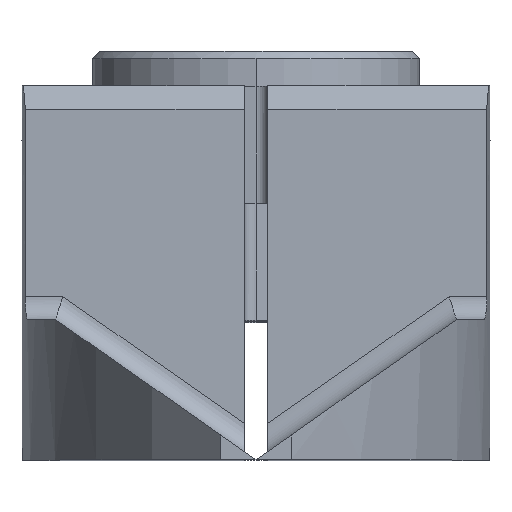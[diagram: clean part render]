
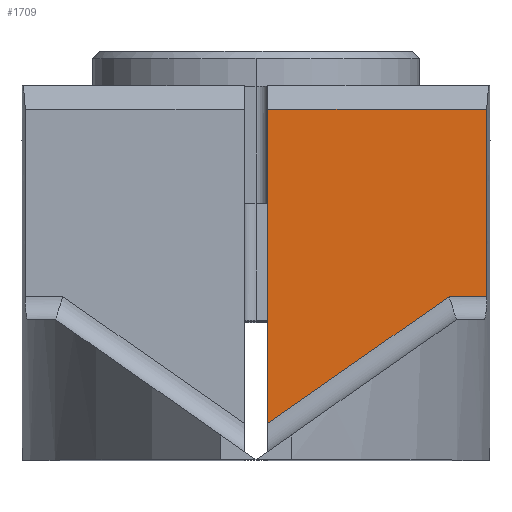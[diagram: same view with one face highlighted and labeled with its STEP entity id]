
A CAD part, top view. The second image highlights one B-rep face of the part: STEP entity #1709.
In plain terms, the highlighted planar face has unit normal (0, 0, 1).
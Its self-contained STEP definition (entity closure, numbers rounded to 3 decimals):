
#196 = ORIENTED_EDGE ( 'NONE', *, *, #337, .T. ) ;
#232 = VERTEX_POINT ( 'NONE', #1967 ) ;
#250 = EDGE_CURVE ( 'NONE', #4395, #232, #3202, .T. ) ;
#337 = EDGE_CURVE ( 'NONE', #4284, #2997, #1109, .T. ) ;
#421 = EDGE_CURVE ( 'NONE', #2201, #4395, #4267, .T. ) ;
#736 = DIRECTION ( 'NONE',  ( 1., 0., 0. ) ) ;
#784 = CARTESIAN_POINT ( 'NONE',  ( 9.857, 9., 24. ) ) ;
#785 = DIRECTION ( 'NONE',  ( 0., 0., 1. ) ) ;
#787 = VECTOR ( 'NONE', #2438, 1000. ) ;
#793 = ORIENTED_EDGE ( 'NONE', *, *, #2061, .F. ) ;
#910 = PLANE ( 'NONE',  #2645 ) ;
#1109 = LINE ( 'NONE', #1699, #1929 ) ;
#1264 = CARTESIAN_POINT ( 'NONE',  ( 0.5, -4.429, 24. ) ) ;
#1571 = DIRECTION ( 'NONE',  ( 0.819, 0.574, 0. ) ) ;
#1699 = CARTESIAN_POINT ( 'NONE',  ( 0.5, -4.429, 24. ) ) ;
#1709 = ADVANCED_FACE ( 'NONE', ( #2128 ), #910, .T. ) ;
#1809 = DIRECTION ( 'NONE',  ( 0., 1., 0. ) ) ;
#1847 = LINE ( 'NONE', #3223, #2675 ) ;
#1929 = VECTOR ( 'NONE', #1571, 1000. ) ;
#1933 = CARTESIAN_POINT ( 'NONE',  ( 9.857, 2., 24. ) ) ;
#1967 = CARTESIAN_POINT ( 'NONE',  ( 9.857, 1., 24. ) ) ;
#2050 = EDGE_LOOP ( 'NONE', ( #3542, #2737, #196, #793, #3609 ) ) ;
#2061 = EDGE_CURVE ( 'NONE', #232, #2997, #3401, .T. ) ;
#2128 = FACE_OUTER_BOUND ( 'NONE', #2050, .T. ) ;
#2201 = VERTEX_POINT ( 'NONE', #4079 ) ;
#2438 = DIRECTION ( 'NONE',  ( 1., 0., 0. ) ) ;
#2645 = AXIS2_PLACEMENT_3D ( 'NONE', #1264, #785, #736 ) ;
#2649 = CARTESIAN_POINT ( 'NONE',  ( 5.247, 9., 24. ) ) ;
#2675 = VECTOR ( 'NONE', #1809, 1000. ) ;
#2737 = ORIENTED_EDGE ( 'NONE', *, *, #4385, .F. ) ;
#2997 = VERTEX_POINT ( 'NONE', #3945 ) ;
#3202 = LINE ( 'NONE', #1933, #4118 ) ;
#3223 = CARTESIAN_POINT ( 'NONE',  ( 0.5, 2., 24. ) ) ;
#3282 = CARTESIAN_POINT ( 'NONE',  ( 9.055, 1., 24. ) ) ;
#3401 = LINE ( 'NONE', #3282, #4208 ) ;
#3542 = ORIENTED_EDGE ( 'NONE', *, *, #421, .F. ) ;
#3556 = DIRECTION ( 'NONE',  ( -1., 0., 0. ) ) ;
#3609 = ORIENTED_EDGE ( 'NONE', *, *, #250, .F. ) ;
#3945 = CARTESIAN_POINT ( 'NONE',  ( 8.254, 1., 24. ) ) ;
#3991 = DIRECTION ( 'NONE',  ( 0., -1., 0. ) ) ;
#4079 = CARTESIAN_POINT ( 'NONE',  ( 0.5, 9., 24. ) ) ;
#4118 = VECTOR ( 'NONE', #3991, 1000. ) ;
#4208 = VECTOR ( 'NONE', #3556, 1000. ) ;
#4214 = CARTESIAN_POINT ( 'NONE',  ( 0.5, -4.429, 24. ) ) ;
#4267 = LINE ( 'NONE', #2649, #787 ) ;
#4284 = VERTEX_POINT ( 'NONE', #4214 ) ;
#4385 = EDGE_CURVE ( 'NONE', #4284, #2201, #1847, .T. ) ;
#4395 = VERTEX_POINT ( 'NONE', #784 ) ;
